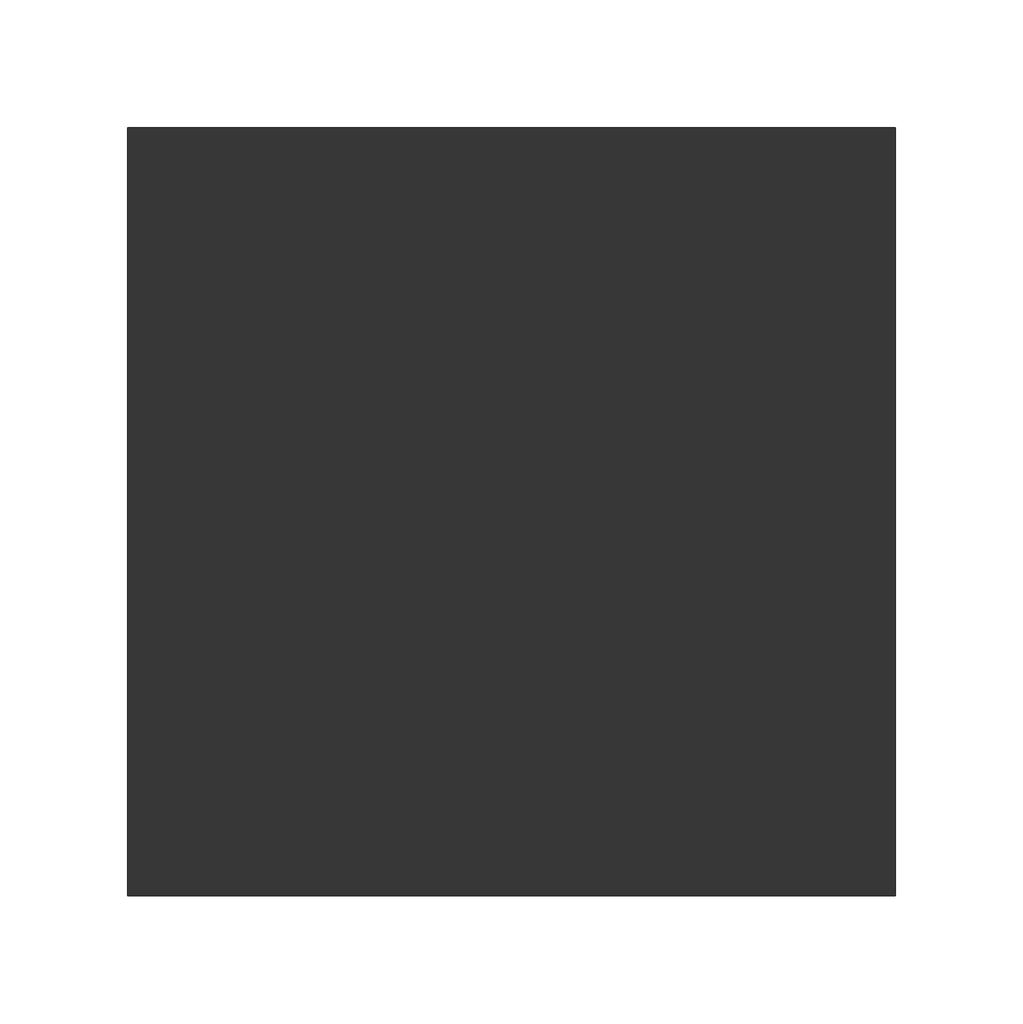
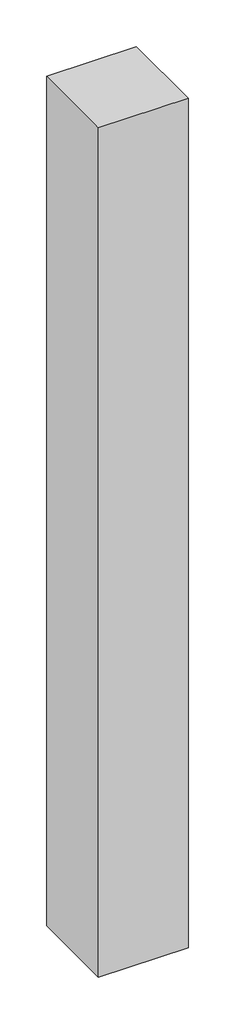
# One storey: 1 column.
"""IFC4 building model written with IfcOpenShell, lengths in millimetres."""

import ifcopenshell
import ifcopenshell.guid

model = None  # the IFC model being written
_history = None  # IfcOwnerHistory: only IFC2X3 demands one
_inside = {}  # id of a spatial element -> (the spatial element, [elements in it])
_under = {}  # id of a project, library or spatial element -> (it, [spatial elements below it])
_declared = {}  # id of a project -> (the project, [libraries it declares])
_typed = {}  # id of a type object -> (the type object, [elements of that type])
_made_of = {}  # id of a material, layer set ... -> (it, [elements and type objects made of it])


def new_model(schema):
    """Start an empty IFC model of exactly this schema.

    Asked for "IFC4X3", IfcOpenShell would pick the latest addendum, in which some entities
    have other attributes; the version numbers below select the first issue.
    IFC2X3 requires an IfcOwnerHistory on every rooted entity: one is made here for all.
    """
    global model, _history
    if schema == "IFC4X3":
        model = ifcopenshell.file(schema_version=(4, 3, 0, 0))
    else:
        model = ifcopenshell.file(schema=schema)
    _inside.clear()
    _under.clear()
    _declared.clear()
    _typed.clear()
    _made_of.clear()
    _history = None
    if model.schema == "IFC2X3":
        org = make("IfcOrganization", Name="unknown")
        user = make(
            "IfcPersonAndOrganization",
            ThePerson=make("IfcPerson", FamilyName="unknown"),
            TheOrganization=org,
        )
        app = make(
            "IfcApplication",
            ApplicationDeveloper=org,
            Version="unknown",
            ApplicationFullName="unknown",
            ApplicationIdentifier="unknown",
        )
        _history = make(
            "IfcOwnerHistory",
            OwningUser=user,
            OwningApplication=app,
            ChangeAction="ADDED",
            CreationDate=0,
        )
    return model


def make(cls, **values):
    """One entity of the class cls with the attributes given. An attribute that is None is left unset."""
    return model.create_entity(
        cls, **{name: value for name, value in values.items() if value is not None}
    )


def rooted(cls, **values):
    """An entity with a GlobalId (a new one), such as an element, a storey or a relation."""
    return make(cls, GlobalId=ifcopenshell.guid.new(), OwnerHistory=_history, **values)


def si_unit(unit_type, name, prefix=None):
    """IfcSIUnit, for example si_unit("LENGTHUNIT", "METRE", prefix="MILLI")."""
    return make("IfcSIUnit", UnitType=unit_type, Prefix=prefix, Name=name)


def assignment(units):
    """IfcUnitAssignment: the units of a project."""
    return None if units is None else make("IfcUnitAssignment", Units=units)


def point(xyz):
    """IfcCartesianPoint."""
    return None if xyz is None else make("IfcCartesianPoint", Coordinates=xyz)


def direction(xyz):
    """IfcDirection."""
    return None if xyz is None else make("IfcDirection", DirectionRatios=xyz)


def frame(location, z_axis=None, x_axis=None):
    """IfcAxis2Placement3D, a coordinate frame: its origin and axes. An axis left out is left unset."""
    return make(
        "IfcAxis2Placement3D",
        Location=point(location),
        Axis=direction(z_axis),
        RefDirection=direction(x_axis),
    )


def origin():
    """The frame at (0, 0, 0) with its axes left unset."""
    return frame((0.0, 0.0, 0.0))


def place(relative_to, where):
    """IfcLocalPlacement: puts the frame where relative to a parent placement (None: the world)."""
    return make(
        "IfcLocalPlacement", PlacementRelTo=relative_to, RelativePlacement=where
    )


def context(
    kind, dimensions, precision=None, world=None, true_north=None, identifier=None
):
    """IfcGeometricRepresentationContext, for example the 3D "Model" context."""
    return make(
        "IfcGeometricRepresentationContext",
        ContextIdentifier=identifier,
        ContextType=kind,
        CoordinateSpaceDimension=dimensions,
        Precision=precision,
        WorldCoordinateSystem=world,
        TrueNorth=true_north,
    )


def project(units=None, contexts=None):
    """IfcProject with its units and contexts."""
    return rooted(
        "IfcProject",
        Name="project",
        RepresentationContexts=contexts,
        UnitsInContext=assignment(units),
    )


def spatial(cls, under=None, at=None, **own):
    """A site, building, storey or space (cls), placed at a placement, below another one or the project."""
    s = rooted(cls, ObjectPlacement=at, **own)
    if under is not None:
        _under.setdefault(under.id(), (under, []))[1].append(s)
    return s


def polyline(points):
    """IfcPolyline through the points."""
    return make("IfcPolyline", Points=[point(p) for p in points])


def outline(outer, holes=None, kind="AREA"):
    """IfcArbitraryClosedProfileDef: a profile drawn as a closed curve; with holes, ...WithVoids."""
    if holes is None:
        return make("IfcArbitraryClosedProfileDef", ProfileType=kind, OuterCurve=outer)
    return make(
        "IfcArbitraryProfileDefWithVoids",
        ProfileType=kind,
        OuterCurve=outer,
        InnerCurves=holes,
    )


def extrude(swept, where, along, depth):
    """IfcExtrudedAreaSolid: the profile swept, set in the frame where, extruded along a direction by depth."""
    return make(
        "IfcExtrudedAreaSolid",
        SweptArea=swept,
        Position=where,
        ExtrudedDirection=direction(along),
        Depth=depth,
    )


def shape(context_of_items, identifier, shape_type, items):
    """IfcShapeRepresentation: the items that make up one representation, for example the "Body"."""
    return make(
        "IfcShapeRepresentation",
        ContextOfItems=context_of_items,
        RepresentationIdentifier=identifier,
        RepresentationType=shape_type,
        Items=items,
    )


def source(mapping_origin, context_of_items, identifier, shape_type, items):
    """IfcRepresentationMap: a shape defined once, which mapped items show again and again."""
    return make(
        "IfcRepresentationMap",
        MappingOrigin=mapping_origin,
        MappedRepresentation=shape(context_of_items, identifier, shape_type, items),
    )


def transform(
    local_origin,
    x_axis=None,
    y_axis=None,
    z_axis=None,
    scale=None,
    scale2=None,
    scale3=None,
    uniform=True,
):
    """IfcCartesianTransformationOperator3D, or its non-uniform kind. x_axis, y_axis, z_axis: its Axis1, 2, 3."""
    if uniform:
        return make(
            "IfcCartesianTransformationOperator3D",
            Axis1=direction(x_axis),
            Axis2=direction(y_axis),
            LocalOrigin=point(local_origin),
            Scale=scale,
            Axis3=direction(z_axis),
        )
    return make(
        "IfcCartesianTransformationOperator3DnonUniform",
        Axis1=direction(x_axis),
        Axis2=direction(y_axis),
        LocalOrigin=point(local_origin),
        Scale=scale,
        Axis3=direction(z_axis),
        Scale2=scale2,
        Scale3=scale3,
    )


def mapped(mapping_source, mapping_target):
    """IfcMappedItem: shows the shape of a source again, moved by a transform."""
    return make(
        "IfcMappedItem", MappingSource=mapping_source, MappingTarget=mapping_target
    )


def made_of(thing, what):
    """Note that an element or type object is made of a material, layer set ...; save() writes the relation."""
    if what is not None:
        _made_of.setdefault(what.id(), (what, []))[1].append(thing)
    return thing


def element(
    cls,
    number,
    at=None,
    inside=None,
    cuts=None,
    type_object=None,
    material=None,
    context=None,
    identifier="Body",
    shape_type=None,
    held_by="IfcProductDefinitionShape",
    body=None,
    shapes=None,
    **own,
):
    """One element of the class cls, such as IfcWall. Its Tag is "e" and its number.

    at: its placement. inside: the storey or other place that contains it. cuts: it is an
    opening in that element (IfcRelVoidsElement). A single representation is given by context,
    identifier, shape_type and body (its items); several are given by shapes. held_by: the class
    of the entity that holds the representations. save() writes the other relations.
    """
    e = rooted(cls, Tag="e%d" % number, ObjectPlacement=at, **own)
    if body is not None:
        shapes = [shape(context, identifier, shape_type, body)]
    if shapes is not None:
        e.Representation = make(held_by, Representations=shapes)
    if inside is not None:
        _inside.setdefault(inside.id(), (inside, []))[1].append(e)
    if cuts is not None:
        rooted(
            "IfcRelVoidsElement", RelatingBuildingElement=cuts, RelatedOpeningElement=e
        )
    if type_object is not None:
        _typed.setdefault(type_object.id(), (type_object, []))[1].append(e)
    return made_of(e, material)


def aggregate(whole, parts):
    """IfcRelAggregates: a whole, such as a stair, and the parts it consists of."""
    return rooted("IfcRelAggregates", RelatingObject=whole, RelatedObjects=parts)


def save(model, path):
    """Write the relations noted so far, then the file.

    IfcRelAggregates (storeys below a building ...), IfcRelContainedInSpatialStructure (elements
    in a storey), IfcRelDefinesByType, IfcRelAssociatesMaterial and IfcRelDeclares: one each for
    every whole, place, type object, material and project.
    """
    for whole, parts in _under.values():
        aggregate(whole, parts)
    for where, things in _inside.values():
        rooted(
            "IfcRelContainedInSpatialStructure",
            RelatedElements=things,
            RelatingStructure=where,
        )
    for kind, things in _typed.values():
        rooted("IfcRelDefinesByType", RelatedObjects=things, RelatingType=kind)
    for what, things in _made_of.values():
        rooted("IfcRelAssociatesMaterial", RelatedObjects=things, RelatingMaterial=what)
    for by, libraries in _declared.values():
        rooted("IfcRelDeclares", RelatingContext=by, RelatedDefinitions=libraries)
    model.write(path)


def stb_30_x_30_1b1dcc2f(model_context):
    return source(origin(), model_context, "Body", "SweptSolid", [
        extrude(outline(polyline([(150.0, 150.0), (150.0, -150.0), (-150.0, -150.0), (-150.0, 150.0), (150.0, 150.0)])), frame((0.0, 0.0, 6000.0), z_axis=(0.0, 0.0, 1.0), x_axis=(1.0, 0.0, 0.0)), (0.0, 0.0, 1.0), 3000.0),
    ])


model = new_model("IFC4")

# Units and contexts
model_context = context("Model", 3, world=origin())
ifc_project = project(units=[si_unit("LENGTHUNIT", "METRE", prefix="MILLI")], contexts=[model_context])

# Site, building, storey
site = spatial("IfcSite", under=ifc_project)
building = spatial("IfcBuilding", under=site)
storey = spatial("IfcBuildingStorey", under=building, Name="Decke über 1.OG", Elevation=6000.0)

# Column
placement = place(None, origin())
stb_30_x_30_shape = stb_30_x_30_1b1dcc2f(model_context)
element("IfcColumn", 1, ObjectType="STB Stütze - rechteckig : STB 30 x 30", at=placement, inside=storey, context=model_context, shape_type="MappedRepresentation", body=[
    mapped(stb_30_x_30_shape, transform((11108.6554073, 238.0357862, 0.0), x_axis=(1.0, 0.0, 0.0), y_axis=(0.0, 1.0, 0.0), z_axis=(0.0, 0.0, 1.0))),
])

save(model, "model.ifc")
